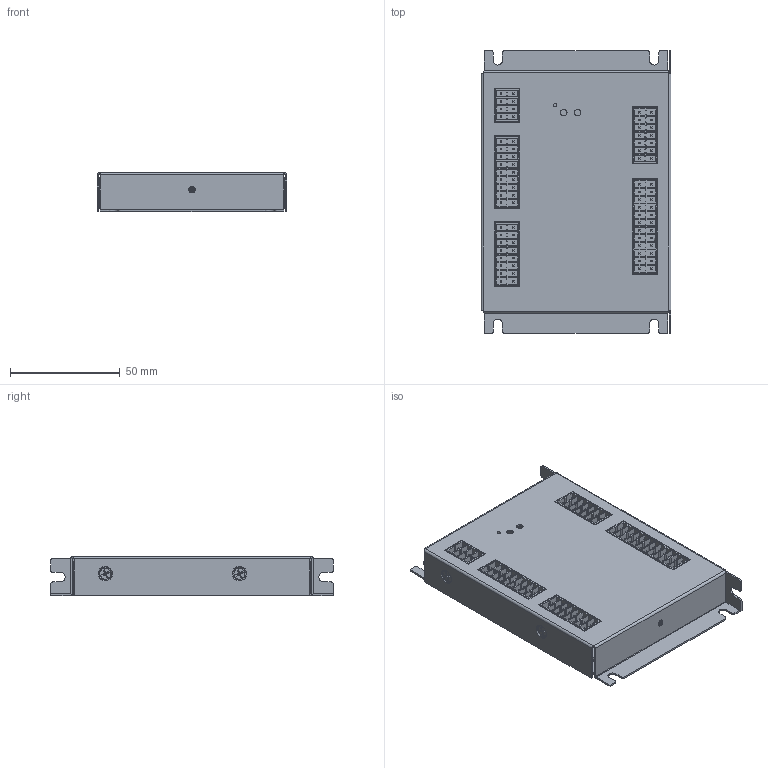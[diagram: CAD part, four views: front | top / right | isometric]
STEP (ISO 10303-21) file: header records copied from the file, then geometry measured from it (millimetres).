
FILE_DESCRIPTION (( 'STEP AP203' ), '1' );
FILE_NAME ('VM4000.STEP', '2026-05-24T04:02:07', ( '' ), ( '' ), 'SwSTEP 2.0', 'SolidWorks 2023', '' );
FILE_SCHEMA (( 'CONFIG_CONTROL_DESIGN' ));
Length unit declared in the file: millimetre
Products named in the file (23): 底座; P1; CONN-TH_12P-P3.50_KEFA_KF2EDGSV-3.5-2X6P~CONN-TH_12P-P3.50_KEFA_KF2EDGSV-3.5-2X6P~gawh_1.step; CN1~CONN-TH_12P-P3.50_KEFA_KF2EDGSV-3.5-2X6P~CONN-TH_12P-P3.50_KEFA_KF2EDGSV-3.5-2X6P~9qys_1.step; 驱动器; USB1~USB-C-SMD_TYPE-C-6PIN-2MD-073~USB-C-SMD_TYPE-C-6PIN-2MD-073~qEDV_1.step; CONN-TH_12P-P3.50_KEFA_KF2EDGSV-3.5-2X6P~CONN-TH_12P-P3.50_KEFA_KF2EDGSV-3.5-2X6P~gawh_1.step-1; KF2EDGSV-3.5-2-12; KF2EDGSV-3.5-2-6; 上盖; cross recessed ctsk wood screws gb_GB_WOOD_SCREWS_TYPE135 3X8-N; P5; Board; 4P-ok; VM4000; typeC; P4; J1; CN1~CONN-TH_12P-P3.50_KEFA_KF2EDGSV-3.5-2X6P~CONN-TH_12P-P3.50_KEFA_KF2EDGSV-3.5-2X6P~9qys_1.step-1; P2; MJ6A-B211-HRL1T00(2); USB-C-SMD_TYPE-C-6PIN-2MD-073~USB-C-SMD_TYPE-C-6PIN-2MD-073~3gSv_1.step; P3
Assembly tree (31 placements, depth 6):
  VM4000
    底座
    上盖
    cross recessed ctsk wood screws gb_GB_WOOD_SCREWS_TYPE135 3X8-N  x4
    驱动器
      P3
        KF2EDGSV-3.5-2-6
          CN1~CONN-TH_12P-P3.50_KEFA_KF2EDGSV-3.5-2X6P~CONN-TH_12P-P3.50_KEFA_KF2EDGSV-3.5-2X6P~9qys_1.step
            CONN-TH_12P-P3.50_KEFA_KF2EDGSV-3.5-2X6P~CONN-TH_12P-P3.50_KEFA_KF2EDGSV-3.5-2X6P~gawh_1.step
      J1
        typeC
          USB1~USB-C-SMD_TYPE-C-6PIN-2MD-073~USB-C-SMD_TYPE-C-6PIN-2MD-073~qEDV_1.step
            USB-C-SMD_TYPE-C-6PIN-2MD-073~USB-C-SMD_TYPE-C-6PIN-2MD-073~3gSv_1.step
      P4
        KF2EDGSV-3.5-2-6
          CN1~CONN-TH_12P-P3.50_KEFA_KF2EDGSV-3.5-2X6P~CONN-TH_12P-P3.50_KEFA_KF2EDGSV-3.5-2X6P~9qys_1.step
            CONN-TH_12P-P3.50_KEFA_KF2EDGSV-3.5-2X6P~CONN-TH_12P-P3.50_KEFA_KF2EDGSV-3.5-2X6P~gawh_1.step
      P5
        KF2EDGSV-3.5-2-6
          CN1~CONN-TH_12P-P3.50_KEFA_KF2EDGSV-3.5-2X6P~CONN-TH_12P-P3.50_KEFA_KF2EDGSV-3.5-2X6P~9qys_1.step
            CONN-TH_12P-P3.50_KEFA_KF2EDGSV-3.5-2X6P~CONN-TH_12P-P3.50_KEFA_KF2EDGSV-3.5-2X6P~gawh_1.step
      P2
        KF2EDGSV-3.5-2-12
          CN1~CONN-TH_12P-P3.50_KEFA_KF2EDGSV-3.5-2X6P~CONN-TH_12P-P3.50_KEFA_KF2EDGSV-3.5-2X6P~9qys_1.step-1  x2
            CONN-TH_12P-P3.50_KEFA_KF2EDGSV-3.5-2X6P~CONN-TH_12P-P3.50_KEFA_KF2EDGSV-3.5-2X6P~gawh_1.step-1
      P1
        MJ6A-B211-HRL1T00(2)
      Board
      4P-ok  x4
Bounding box: 86.6 x 129 x 17.85 mm (x, y, z)
Volume: 46368.5 mm3; surface area: 99709.1 mm2
Topology: 71 solids, 71 shells, 5664 faces, 14499 edges, 9343 vertices
Faces by surface type: plane 4100, bspline 964, cylinder 520, cone 72, torus 8
Entity records: 83397 total; most frequent: CARTESIAN_POINT 19709, ORIENTED_EDGE 13162, DIRECTION 11301, EDGE_CURVE 6581, VECTOR 4949, LINE 4949, VERTEX_POINT 4255, AXIS2_PLACEMENT_3D 3176
